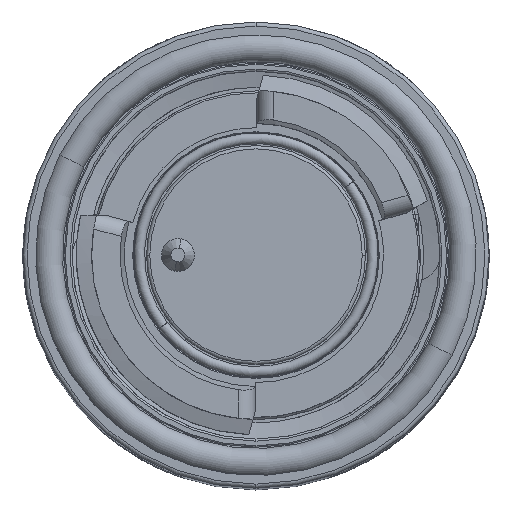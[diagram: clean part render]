
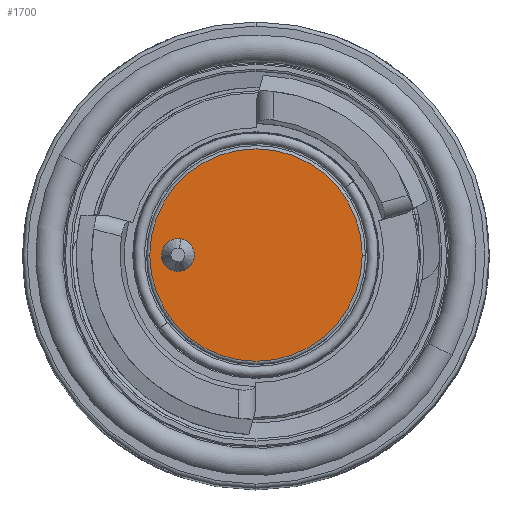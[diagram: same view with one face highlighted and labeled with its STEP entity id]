
A CAD part, top view. The second image highlights one B-rep face of the part: STEP entity #1700.
In plain terms, the highlighted planar face has unit normal (0, 0, 1).
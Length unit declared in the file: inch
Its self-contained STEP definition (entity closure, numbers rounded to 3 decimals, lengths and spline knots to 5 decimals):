
#56 = DIRECTION ( 'NONE',  ( 0., 0., -1. ) ) ;
#528 = DIRECTION ( 'NONE',  ( 1., 0., 0. ) ) ;
#1070 = VERTEX_POINT ( 'NONE', #1743 ) ;
#1224 = CARTESIAN_POINT ( 'NONE',  ( -0.18701, 0., -0.25984 ) ) ;
#1301 = EDGE_LOOP ( 'NONE', ( #13349, #13563 ) ) ;
#1395 = CARTESIAN_POINT ( 'NONE',  ( -0.19451, -0.03863, -0.25984 ) ) ;
#1700 = ADVANCED_FACE ( 'NONE', ( #2364, #6907 ), #5807, .F. ) ;
#1743 = CARTESIAN_POINT ( 'NONE',  ( 0.25433, 0., -0.25984 ) ) ;
#1900 = EDGE_CURVE ( 'NONE', #9490, #4879, #10141, .T. ) ;
#2364 = FACE_BOUND ( 'NONE', #1301, .T. ) ;
#2366 = EDGE_CURVE ( 'NONE', #4879, #9490, #10839, .T. ) ;
#2852 = DIRECTION ( 'NONE',  ( 0., 0., 1. ) ) ;
#2977 = CARTESIAN_POINT ( 'NONE',  ( 0., 0., -0.25984 ) ) ;
#3958 = ORIENTED_EDGE ( 'NONE', *, *, #11780, .T. ) ;
#4220 = AXIS2_PLACEMENT_3D ( 'NONE', #2977, #7446, #12033 ) ;
#4406 = EDGE_CURVE ( 'NONE', #1070, #12413, #5186, .T. ) ;
#4822 = DIRECTION ( 'NONE',  ( -1., 0., 0. ) ) ;
#4879 = VERTEX_POINT ( 'NONE', #6785 ) ;
#5186 = CIRCLE ( 'NONE', #9932, 0.25433 ) ;
#5652 = DIRECTION ( 'NONE',  ( 0., 0., -1. ) ) ;
#5760 = DIRECTION ( 'NONE',  ( 0., 0., -1. ) ) ;
#5807 = PLANE ( 'NONE',  #9884 ) ;
#5934 = ORIENTED_EDGE ( 'NONE', *, *, #4406, .T. ) ;
#6785 = CARTESIAN_POINT ( 'NONE',  ( -0.17951, 0.03863, -0.25984 ) ) ;
#6907 = FACE_OUTER_BOUND ( 'NONE', #13776, .T. ) ;
#7057 = DIRECTION ( 'NONE',  ( -1., 0., 0. ) ) ;
#7446 = DIRECTION ( 'NONE',  ( 0., 0., 1. ) ) ;
#8247 = CIRCLE ( 'NONE', #4220, 0.25433 ) ;
#8571 = CARTESIAN_POINT ( 'NONE',  ( 0., 0., -0.25984 ) ) ;
#9037 = CARTESIAN_POINT ( 'NONE',  ( -0.25433, 0., -0.25984 ) ) ;
#9490 = VERTEX_POINT ( 'NONE', #1395 ) ;
#9884 = AXIS2_PLACEMENT_3D ( 'NONE', #12674, #56, #7057 ) ;
#9932 = AXIS2_PLACEMENT_3D ( 'NONE', #8571, #2852, #528 ) ;
#10141 = CIRCLE ( 'NONE', #13931, 0.03935 ) ;
#10839 = CIRCLE ( 'NONE', #12281, 0.03935 ) ;
#11728 = CARTESIAN_POINT ( 'NONE',  ( -0.18701, 0., -0.25984 ) ) ;
#11780 = EDGE_CURVE ( 'NONE', #12413, #1070, #8247, .T. ) ;
#12033 = DIRECTION ( 'NONE',  ( 1., 0., 0. ) ) ;
#12281 = AXIS2_PLACEMENT_3D ( 'NONE', #11728, #5760, #12624 ) ;
#12413 = VERTEX_POINT ( 'NONE', #9037 ) ;
#12624 = DIRECTION ( 'NONE',  ( -1., 0., 0. ) ) ;
#12674 = CARTESIAN_POINT ( 'NONE',  ( -0.25433, 0., -0.25984 ) ) ;
#13349 = ORIENTED_EDGE ( 'NONE', *, *, #1900, .T. ) ;
#13563 = ORIENTED_EDGE ( 'NONE', *, *, #2366, .T. ) ;
#13776 = EDGE_LOOP ( 'NONE', ( #5934, #3958 ) ) ;
#13931 = AXIS2_PLACEMENT_3D ( 'NONE', #1224, #5652, #4822 ) ;
